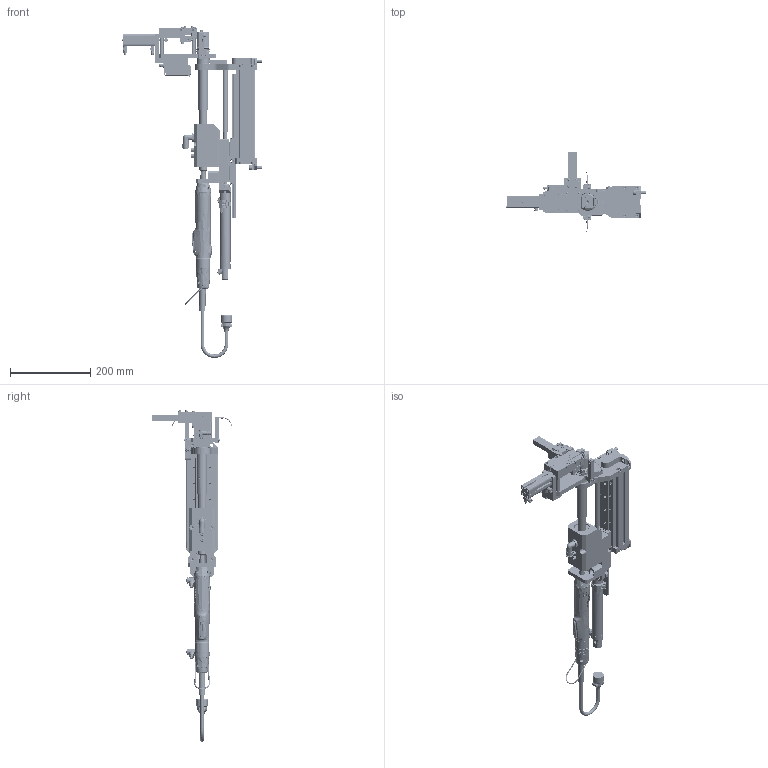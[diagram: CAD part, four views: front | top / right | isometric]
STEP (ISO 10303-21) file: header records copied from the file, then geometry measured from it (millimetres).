
FILE_DESCRIPTION((''),'2;1');
FILE_NAME('C:\Users\wolf\Desktop\SRM20.stp','2014-02-13T11:55:06',('wolf'),(''),'Autodesk Inventor 2011','Autodesk Inventor 2011','');
FILE_SCHEMA(('AUTOMOTIVE_DESIGN { 1 0 10303 214 1 1 1 1 }'));
Length unit declared in the file: millimetre
Products named in the file (1): Ableitung-SRM20-t
Bounding box: 352 x 199.69 x 829.94 mm (x, y, z)
Volume: 2671793.3 mm3; surface area: 713170.2 mm2
Topology: 128 solids, 129 shells, 5600 faces, 13953 edges, 8914 vertices
Faces by surface type: plane 2814, cylinder 1623, cone 483, bspline 429, torus 220, sphere 31
Full cylindrical faces by diameter (mm): 1 x4, 1.2 x1, 1.8 x2, 2 x8, 2.19 x1, 2.2 x2, 2.3 x2, 2.4 x3, 2.459 x8, 2.5 x3, 2.7 x1, 2.8 x1, 3 x24, 3.02 x1, 3.1 x3, 3.242 x51, 3.8 x5, 4 x53, 4.1 x3, 4.134 x15, 4.2 x4, 4.3 x13, 4.4 x2, 4.5 x30, 4.6 x18, 4.9 x1, 4.917 x5, 5 x24, 5.2 x2, 5.3 x2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
Entity records: 201467 total; most frequent: CARTESIAN_POINT 74501, ORIENTED_EDGE 24744, DIRECTION 23540, EDGE_CURVE 12372, AXIS2_PLACEMENT_3D 8650, VERTEX_POINT 8458, EDGE_LOOP 7458, VECTOR 6240
